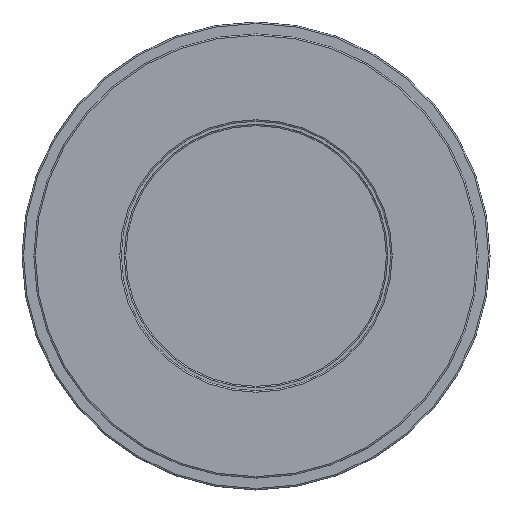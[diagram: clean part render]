
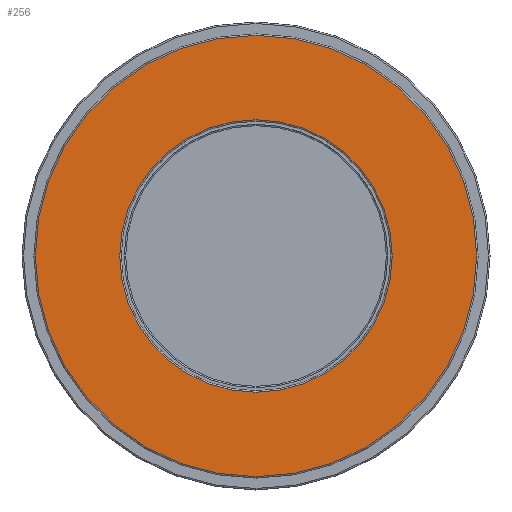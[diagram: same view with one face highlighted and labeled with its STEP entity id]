
A CAD part, front view. The second image highlights one B-rep face of the part: STEP entity #256.
In plain terms, the highlighted planar face has unit normal (0, -1, 0).
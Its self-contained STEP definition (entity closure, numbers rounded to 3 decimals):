
#256=ADVANCED_FACE('',(#3564,#3566),#3568,.T.);
#3564=FACE_BOUND('',#3565,.T.);
#3565=EDGE_LOOP('',(#4390,#4391));
#3566=FACE_BOUND('',#3567,.T.);
#3567=EDGE_LOOP('',(#4392,#4393));
#3568=PLANE('',#3569);
#3569=AXIS2_PLACEMENT_3D('',#3570,#3571,#3572);
#3570=CARTESIAN_POINT('',(0.,-34.,0.));
#3571=DIRECTION('',(0.,-1.,0.));
#3572=DIRECTION('',(0.,0.,1.));
#4390=ORIENTED_EDGE('',*,*,#4794,.F.);
#4391=ORIENTED_EDGE('',*,*,#4793,.F.);
#4392=ORIENTED_EDGE('',*,*,#4795,.T.);
#4393=ORIENTED_EDGE('',*,*,#4796,.T.);
#4793=EDGE_CURVE('',#5356,#5357,#5358,.T.);
#4794=EDGE_CURVE('',#5357,#5356,#5359,.T.);
#4795=EDGE_CURVE('',#5360,#5361,#5362,.T.);
#4796=EDGE_CURVE('',#5361,#5360,#5363,.T.);
#5356=VERTEX_POINT('',#10101);
#5357=VERTEX_POINT('',#10102);
#5358=CIRCLE('',#10103,74.5);
#5359=CIRCLE('',#10107,74.5);
#5360=VERTEX_POINT('',#10111);
#5361=VERTEX_POINT('',#10112);
#5362=CIRCLE('',#10113,46.);
#5363=CIRCLE('',#10117,46.);
#10101=CARTESIAN_POINT('',(0.,-34.,74.5));
#10102=CARTESIAN_POINT('',(0.,-34.,-74.5));
#10103=AXIS2_PLACEMENT_3D('',#10104,#10105,#10106);
#10104=CARTESIAN_POINT('',(0.,-34.,0.));
#10105=DIRECTION('',(0.,1.,0.));
#10106=DIRECTION('',(0.,0.,1.));
#10107=AXIS2_PLACEMENT_3D('',#10108,#10109,#10110);
#10108=CARTESIAN_POINT('',(0.,-34.,0.));
#10109=DIRECTION('',(0.,1.,0.));
#10110=DIRECTION('',(0.,0.,-1.));
#10111=CARTESIAN_POINT('',(0.,-34.,46.));
#10112=CARTESIAN_POINT('',(0.,-34.,-46.));
#10113=AXIS2_PLACEMENT_3D('',#10114,#10115,#10116);
#10114=CARTESIAN_POINT('',(0.,-34.,0.));
#10115=DIRECTION('',(0.,1.,0.));
#10116=DIRECTION('',(0.,0.,1.));
#10117=AXIS2_PLACEMENT_3D('',#10118,#10119,#10120);
#10118=CARTESIAN_POINT('',(0.,-34.,0.));
#10119=DIRECTION('',(0.,1.,0.));
#10120=DIRECTION('',(0.,0.,-1.));
